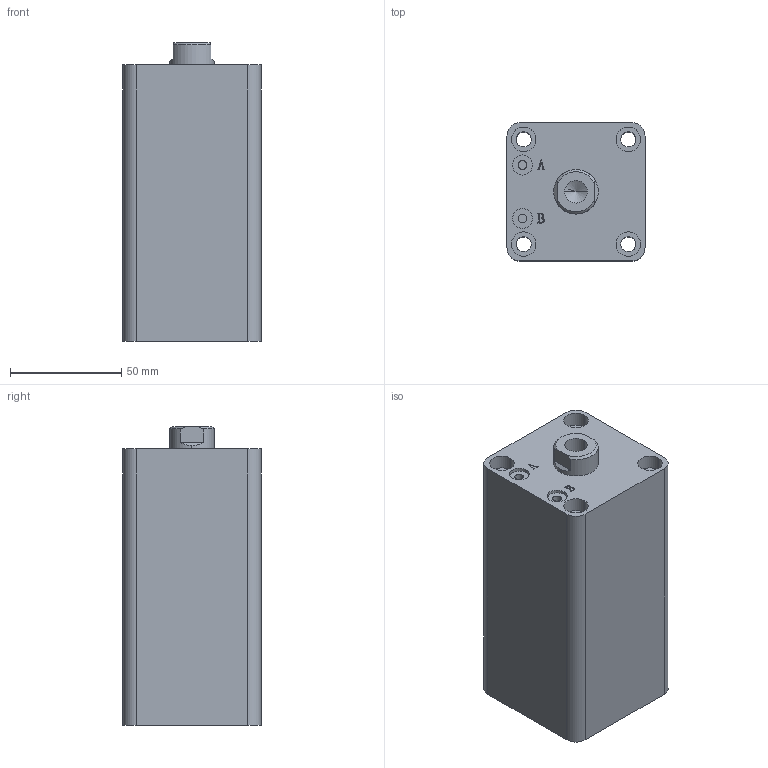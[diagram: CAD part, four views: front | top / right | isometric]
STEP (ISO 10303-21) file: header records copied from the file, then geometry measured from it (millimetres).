
FILE_DESCRIPTION (( 'STEP AP203' ), '1' );
FILE_NAME ('HTB-SDMA32-70N.STEP', '2019-10-07T11:43:18', ( '微软用户' ), ( '微软中国' ), 'SwSTEP 2.0', 'SolidWorks 2012', '' );
FILE_SCHEMA (( 'CONFIG_CONTROL_DESIGN' ));
Length unit declared in the file: millimetre
Products named in the file (3): HTB-SDMA32-70N; HTB-SDMA32-70N活塞杆; HTB-SDMA32-70掛极
Assembly tree (2 placements, depth 2):
  HTB-SDMA32-70N
    HTB-SDMA32-70掛极
    HTB-SDMA32-70N活塞杆
Bounding box: 62 x 62 x 134 mm (x, y, z)
Volume: 418461.4 mm3; surface area: 70497.5 mm2
Topology: 2 solids, 2 shells, 137 faces, 331 edges, 217 vertices
Faces by surface type: plane 65, cylinder 46, bspline 16, torus 6, cone 4
Entity records: 5070 total; most frequent: CARTESIAN_POINT 1576, ORIENTED_EDGE 658, DIRECTION 647, EDGE_CURVE 329, AXIS2_PLACEMENT_3D 232, VERTEX_POINT 217, LINE 183, VECTOR 183
